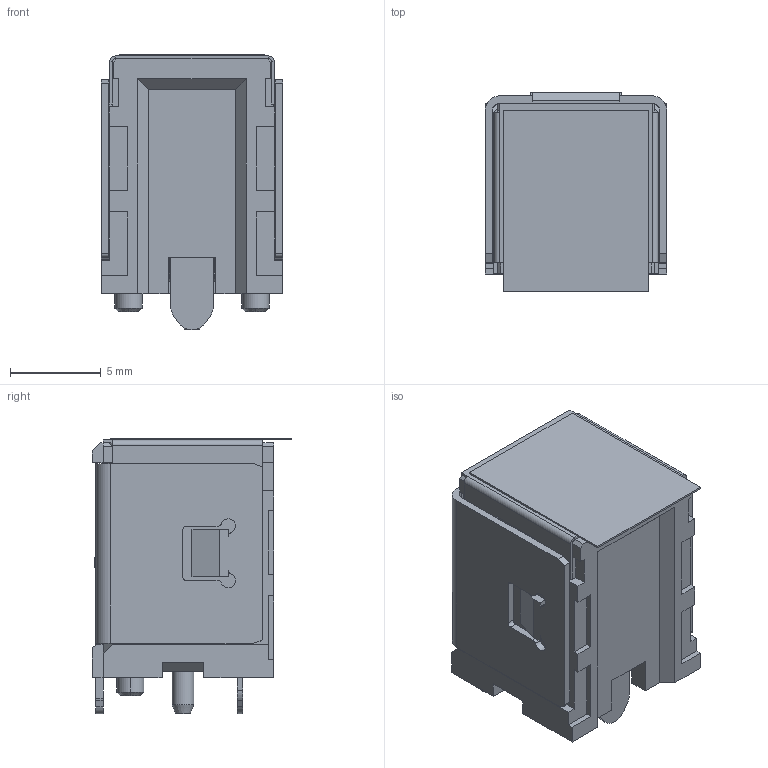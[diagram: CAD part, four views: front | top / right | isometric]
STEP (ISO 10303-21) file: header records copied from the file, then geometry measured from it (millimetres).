
FILE_DESCRIPTION (( 'STEP AP203' ), '1' );
FILE_NAME ('DC-S024A-D025-10A.STEP', '2023-08-29T03:42:23', ( '' ), ( '' ), 'SwSTEP 2.0', 'SolidWorks 2023', '' );
FILE_SCHEMA (( 'CONFIG_CONTROL_DESIGN' ));
Length unit declared in the file: millimetre
Products named in the file (1): DC-S024A-D025-10A
Bounding box: 10 x 11 x 15.2 mm (x, y, z)
Volume: 896.8 mm3; surface area: 1917.5 mm2
Topology: 1 solids, 3 shells, 946 faces, 2752 edges, 1789 vertices
Faces by surface type: plane 561, cylinder 166, bspline 124, cone 49, torus 36, sphere 10
Entity records: 37356 total; most frequent: CARTESIAN_POINT 12994, ORIENTED_EDGE 5496, DIRECTION 4446, EDGE_CURVE 2748, VECTOR 1814, LINE 1814, VERTEX_POINT 1787, AXIS2_PLACEMENT_3D 1316
